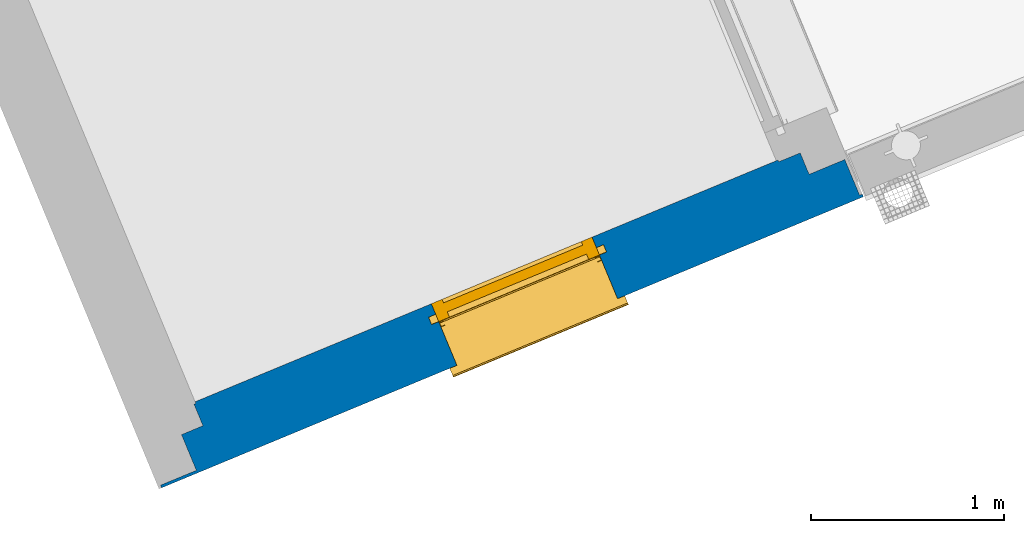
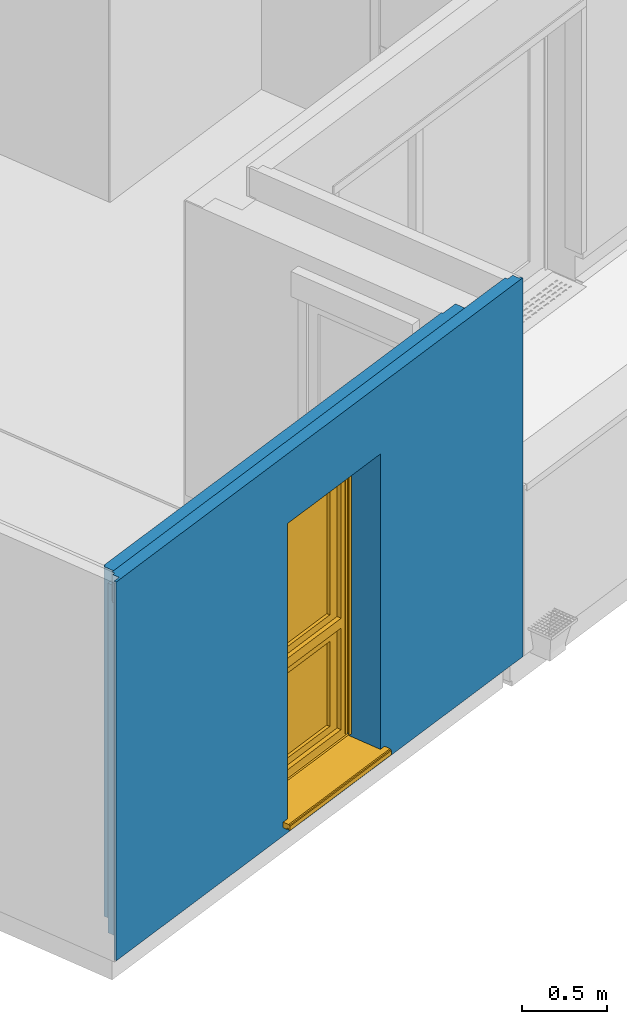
# One storey, part 3 of 91: 1 wall, 1 window, 1 opening.
"""IFC2X3 building model written with IfcOpenShell, lengths in metres."""

from ifc_helpers import new_model, entity, si_unit, converted_unit, derived_unit, money_unit, direction, frame, origin_with_axes, place, context, subcontext, project, spatial, open_shell, faceted_brep, surface_model, source, transform, mapped, material, material_list, type_object, element, fill, save


model = new_model("IFC2X3")

# Units and contexts
model_context = context("Model", 3, precision=1e-05, world=origin_with_axes(), true_north=direction((0.0, 1.0)))
body_context = subcontext(model_context, "Body", "Model", "MODEL_VIEW")
ifc_project = project(units=[si_unit("LENGTHUNIT", "METRE"), si_unit("AREAUNIT", "SQUARE_METRE"), si_unit("VOLUMEUNIT", "CUBIC_METRE"), converted_unit("PLANEANGLEUNIT", "DEGREE", entity("IfcPlaneAngleMeasure", 0.0174532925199), si_unit("PLANEANGLEUNIT", "RADIAN"), dimensions=[0, 0, 0, 0, 0, 0, 0]), si_unit("SOLIDANGLEUNIT", "STERADIAN"), money_unit("EUR"), converted_unit("TIMEUNIT", "Year", entity("IfcTimeMeasure", 31556926.0), si_unit("TIMEUNIT", "SECOND"), dimensions=[0, 0, 1, 0, 0, 0, 0]), si_unit("MASSUNIT", "GRAM", prefix="KILO"), si_unit("THERMODYNAMICTEMPERATUREUNIT", "DEGREE_CELSIUS"), si_unit("LUMINOUSINTENSITYUNIT", "LUMEN"), si_unit("ENERGYUNIT", "JOULE", prefix="MEGA"), derived_unit("THERMALCONDUCTANCEUNIT", [(si_unit("POWERUNIT", "WATT"), 1), (si_unit("LENGTHUNIT", "METRE"), -1), (si_unit("THERMODYNAMICTEMPERATUREUNIT", "KELVIN"), -1)]), derived_unit("SPECIFICHEATCAPACITYUNIT", [(si_unit("ENERGYUNIT", "JOULE"), 1), (si_unit("MASSUNIT", "GRAM", prefix="KILO"), -1), (si_unit("THERMODYNAMICTEMPERATUREUNIT", "KELVIN"), -1)]), derived_unit("MASSDENSITYUNIT", [(si_unit("MASSUNIT", "GRAM", prefix="KILO"), 1), (si_unit("VOLUMEUNIT", "CUBIC_METRE"), -1)])], contexts=[model_context])

# Site, building, storey
site_placement = place(None, origin_with_axes())
site = spatial("IfcSite", under=ifc_project, at=site_placement, Name="Site", CompositionType="ELEMENT")
building_placement = place(site_placement, origin_with_axes())
building = spatial("IfcBuilding", under=site, at=building_placement, Name="Bâtiment", CompositionType="ELEMENT")
storey_placement = place(building_placement, frame((0.0, 0.0, 5.44), z_axis=(0.0, 0.0, 1.0), x_axis=(1.0, 0.0, 0.0)))
storey = spatial("IfcBuildingStorey", under=building, at=storey_placement, Name="R+2", CompositionType="ELEMENT", Elevation=5.44)

# Wall, opening, window
ifc_material_1 = material(Name="Finition int - Plaque de plâtre")
ifc_material_2 = material(Name="Isolation - Polystyrène extrudé")
ifc_material_3 = material(Name="Bloc ELITHERM")
ifc_material_4 = material(Name="Isolation - Polystyrène expansé")
ifc_material_5 = material(Name="Mortier")
ifc_material_6 = material(Name="Béton cellulaire")
ifc_material_7 = material(Name="Finition ext - Crépis")
ifc_material_list = material_list([ifc_material_1, ifc_material_2, ifc_material_3, ifc_material_4, ifc_material_5, ifc_material_6, ifc_material_7])
wall_type = type_object("IfcWallType", Name="Mur ALKERN + planelle 21 345 x 2720", PredefinedType="USERDEFINED")
wall_placement = place(storey_placement, frame((-30.9825111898, -28.5909034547, 0.0), z_axis=(0.0, 0.0, 1.0), x_axis=(0.923701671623, 0.383112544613, 0.0)))
wall = element("IfcWall", 1, at=wall_placement, inside=storey, type_object=wall_type, material=ifc_material_list, Name="Mue bloc ALKERN isolé", ObjectType="SOLIDWALL", context=body_context, shape_type="Brep", body=[
    faceted_brep([(3.60992818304, 0.335000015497, 2.51), (0.344999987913, 0.335000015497, 2.51), (0.344999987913, 0.335000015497, 0.0), (3.60992818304, 0.335000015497, 0.0), (1.66817600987, 0.335000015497, 2.22), (1.66817600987, 0.335000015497, 2.4), (2.56817600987, 0.335000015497, 2.4), (2.56817600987, 0.335000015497, 2.22), (2.56817600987, 0.335000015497, 0.12), (1.66817600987, 0.335000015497, 0.12), (3.60992818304, 0.34499998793, 2.51), (0.344999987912, 0.34499998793, 2.51), (0.344999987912, 0.34499998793, 0.0), (3.60992818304, 0.34499998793, 0.0), (1.66817600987, 0.34499998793, 2.22), (1.66817600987, 0.34499998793, 2.4), (1.66817600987, 0.34499998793, 0.12), (2.56817600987, 0.34499998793, 2.4), (2.56817600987, 0.34499998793, 2.22), (2.56817600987, 0.34499998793, 0.12)], [[[0, 1, 2, 3], [4, 5, 6, 7, 8, 9]], [[10, 11, 1, 0]], [[1, 11, 12, 2]], [[3, 2, 12, 13]], [[0, 3, 13, 10]], [[14, 15, 5, 4, 9, 16]], [[6, 5, 15, 17]], [[7, 6, 17, 18, 19, 8]], [[8, 19, 16, 9]], [[13, 12, 11, 10], [15, 14, 16, 19, 18, 17]]]),
    faceted_brep([(2.56817600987, 0.286, 0.12), (2.56817600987, 0.286, 0.06), (2.56817600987, 0.215000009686, 0.06), (2.56817600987, 0.215000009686, 0.12), (2.56817600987, 0.215, 2.22), (2.56817600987, 0.215, 2.4), (2.56817600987, 0.335000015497, 2.4), (2.56817600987, 0.335000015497, 2.22), (2.56817600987, 0.335000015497, 0.12), (1.66817600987, 0.286, 0.12), (1.66817600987, 0.286, 0.06), (1.66817600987, 0.215000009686, 0.06), (0.335000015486, 0.215000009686, 0.0), (3.7299282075, 0.215000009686, 0.0), (3.7299282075, 0.215000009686, 2.50999999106), (0.335000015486, 0.215000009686, 2.51), (1.66817600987, 0.215000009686, 0.12), (1.66817600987, 0.215, 2.22), (1.66817600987, 0.215, 2.4), (1.66817600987, 0.335000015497, 2.4), (0.33500001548, 0.335000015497, 2.51), (3.72992820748, 0.335000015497, 2.50999999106), (3.72992820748, 0.335000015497, 0.0), (0.33500001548, 0.335000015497, 0.0), (1.66817600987, 0.335000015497, 2.22), (1.66817600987, 0.335000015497, 0.12)], [[[0, 1, 2, 3, 4, 5, 6, 7, 8]], [[0, 9, 10, 1]], [[11, 2, 1, 10]], [[12, 13, 14, 15], [11, 16, 17, 18, 5, 4, 3, 2]], [[18, 19, 6, 5]], [[20, 21, 22, 23], [8, 7, 6, 19, 24, 25]], [[9, 0, 8, 25]], [[16, 11, 10, 9, 25, 24, 19, 18, 17]], [[23, 22, 13, 12]], [[22, 21, 14, 13]], [[15, 14, 21, 20]], [[23, 12, 15, 20]]]),
    faceted_brep([(2.56817600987, 0.214999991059, 0.12), (2.56817600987, 0.214999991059, 0.06), (2.56817600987, 0.015, 0.06), (2.56817600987, 0.015, 0.12), (2.56817600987, 0.015, 2.22), (2.56817600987, 0.214999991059, 2.22), (3.92992821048, 0.214999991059, 0.0), (0.214999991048, 0.214999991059, 0.0), (0.214999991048, 0.214999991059, 2.50999999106), (3.92992821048, 0.214999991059, 2.50999999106), (1.66817600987, 0.214999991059, 2.22), (1.66817600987, 0.214999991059, 0.12), (1.66817600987, 0.214999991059, 0.06), (1.66817600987, 0.015, 0.06), (3.92992821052, 0.015, 2.50999999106), (0.214999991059, 0.015, 2.50999999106), (0.214999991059, 0.015, 0.0), (3.92992821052, 0.015, 0.0), (1.66817600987, 0.015, 0.12), (1.66817600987, 0.015, 2.22), (0.214999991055, 0.0829999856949, 2.50999999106), (3.92992821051, 0.0829999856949, 2.50999999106)], [[[0, 1, 2, 3, 4, 5]], [[6, 7, 8, 9], [1, 0, 5, 10, 11, 12]], [[13, 2, 1, 12]], [[14, 15, 16, 17], [13, 18, 19, 4, 3, 2]], [[19, 10, 5, 4]], [[17, 16, 7, 6]], [[8, 7, 16, 15, 20]], [[9, 8, 20, 21]], [[6, 9, 21, 14, 17]], [[18, 13, 12, 11, 10, 19]], [[21, 20, 15, 14]]]),
    faceted_brep([(0.0830000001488, 0.0630000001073, 2.51999999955), (3.88192819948, 0.0630000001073, 2.51999999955), (3.88192819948, 0.0630000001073, 2.72), (0.0830000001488, 0.0630000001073, 2.72), (0.0830000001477, 0.083000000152, 2.51999999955), (3.88192819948, 0.083000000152, 2.51999999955), (3.88192819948, 0.083000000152, 2.72), (0.0830000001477, 0.083000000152, 2.72)], [[[0, 1, 2, 3]], [[4, 5, 1, 0]], [[5, 6, 2, 1]], [[3, 2, 6, 7]], [[4, 0, 3, 7]], [[7, 6, 5, 4]]]),
    faceted_brep([(3.92992821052, 0.015, 2.50999999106), (3.92992821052, 0.015, 2.51999999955), (0.0829999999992, 0.015, 2.52), (0.0829999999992, 0.015, 2.51), (3.92992821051, 0.083, 2.51999999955), (3.92992821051, 0.083, 2.50999999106), (0.0829999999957, 0.083, 2.52), (0.0829999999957, 0.083, 2.51)], [[[0, 1, 2, 3]], [[4, 1, 0, 5]], [[1, 4, 6, 2]], [[3, 2, 6, 7]], [[5, 0, 3, 7]], [[4, 5, 7, 6]]]),
    faceted_brep([(3.92992821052, 0.015, 2.51999999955), (3.92992821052, 0.015, 2.72), (0.0629999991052, 0.015, 2.72), (0.0629999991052, 0.015, 2.51999999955), (3.92992821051, 0.0629999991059, 2.72), (3.92992821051, 0.0629999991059, 2.51999999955), (0.0629999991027, 0.0629999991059, 2.72), (0.0629999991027, 0.0629999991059, 2.51999999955)], [[[0, 1, 2, 3]], [[4, 1, 0, 5]], [[1, 4, 6, 2]], [[3, 2, 6, 7]], [[5, 0, 3, 7]], [[4, 5, 7, 6]]]),
    faceted_brep([(2.56817600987, 0.0149999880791, 0.12), (2.56817600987, 0.0, 0.12), (2.56817600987, 0.0, 2.22), (2.56817600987, 0.0149999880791, 2.22), (2.56817600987, 0.0, 0.06), (2.56817600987, 0.0149999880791, 0.06), (0.0149999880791, 0.0, 0.0), (3.94492818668, 0.0, 0.0), (3.94492818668, 0.0, 2.72), (0.0149999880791, 0.0, 2.72), (1.66817600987, 0.0, 0.06), (1.66817600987, 0.0, 0.12), (1.66817600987, 0.0, 2.22), (1.66817600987, 0.0149999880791, 2.22), (3.94492818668, 0.0149999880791, 2.72), (3.94492818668, 0.0149999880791, 0.0), (0.0149999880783, 0.0149999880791, 0.0), (0.0149999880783, 0.0149999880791, 2.72), (1.66817600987, 0.0149999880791, 0.12), (1.66817600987, 0.0149999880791, 0.06)], [[[0, 1, 2, 3]], [[4, 1, 0, 5]], [[6, 7, 8, 9], [10, 11, 12, 2, 1, 4]], [[12, 13, 3, 2]], [[14, 15, 16, 17], [5, 0, 3, 13, 18, 19]], [[10, 4, 5, 19]], [[16, 15, 7, 6]], [[14, 8, 7, 15]], [[9, 8, 14, 17]], [[17, 16, 6, 9]], [[18, 11, 10, 19]], [[11, 18, 13, 12]]]),
])
opening_placement = place(wall_placement, frame((2.11817600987, 0.0, 0.12), z_axis=(0.0, 0.0, 1.0), x_axis=(1.0, 0.0, 0.0)))
opening = element("IfcOpeningElement", 2, at=opening_placement, cuts=wall, Name="MEN 86", context=body_context, shape_type="Brep", body=[
    faceted_brep([(-0.45, 0.83499998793, 0.0), (0.45, 0.83499998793, 0.0), (0.45, 0.245, 0.0), (-0.45, 0.245, 0.0), (-0.45, 0.83499998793, 2.1), (0.45, 0.83499998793, 2.1), (0.45, 0.245, 2.1), (-0.45, 0.245, 2.1)], [[[0, 1, 2, 3]], [[0, 4, 5, 1]], [[1, 5, 6, 2]], [[3, 2, 6, 7]], [[4, 0, 3, 7]], [[5, 4, 7, 6]]]),
    faceted_brep([(-0.45, -0.34499998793, 0.0), (-0.45, -0.34499998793, 2.1), (-0.45, 0.245, 2.1), (-0.45, 0.245, 0.0), (0.45, -0.34499998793, 0.0), (0.45, -0.34499998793, 2.1), (0.45, 0.245, 2.1), (0.45, 0.245, 0.0)], [[[0, 1, 2, 3]], [[0, 4, 5, 1]], [[1, 5, 6, 2]], [[3, 2, 6, 7]], [[4, 0, 3, 7]], [[5, 4, 7, 6]]]),
    faceted_brep([(-0.45, -0.34499998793, 0.0), (-0.45, -0.34499998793, 2.1), (-0.45, 0.245, 2.1), (-0.45, 0.245, 0.0), (0.45, -0.34499998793, 0.0), (0.45, -0.34499998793, 2.1), (0.45, 0.245, 2.1), (0.45, 0.245, 0.0)], [[[0, 1, 2, 3]], [[0, 4, 5, 1]], [[1, 5, 6, 2]], [[3, 2, 6, 7]], [[4, 0, 3, 7]], [[5, 4, 7, 6]]]),
    faceted_brep([(-0.45, 0.80499998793, 2.1), (0.45, 0.80499998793, 2.1), (0.45, 0.215, 2.1), (-0.45, 0.215, 2.1), (-0.45, 0.80499998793, 2.28), (0.45, 0.80499998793, 2.28), (0.45, 0.215, 2.28), (-0.45, 0.215, 2.28)], [[[0, 1, 2, 3]], [[0, 4, 5, 1]], [[1, 5, 6, 2]], [[3, 2, 6, 7]], [[4, 0, 3, 7]], [[5, 4, 7, 6]]]),
    faceted_brep([(-0.45, -0.30399998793, 0.0), (0.45, -0.30399998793, 0.0), (0.45, 0.286, 0.0), (-0.45, 0.286, 0.0), (-0.45, -0.30399998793, -0.06), (0.45, -0.30399998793, -0.06), (0.45, 0.286, -0.06), (-0.45, 0.286, -0.06)], [[[0, 1, 2, 3]], [[0, 4, 5, 1]], [[1, 5, 6, 2]], [[3, 2, 6, 7]], [[4, 0, 3, 7]], [[5, 4, 7, 6]]]),
])
window_style = type_object("IfcWindowStyle", Name="Baie générique 2017 v2", ConstructionType="NOTDEFINED", OperationType="NOTDEFINED", ParameterTakesPrecedence=False, Sizeable=False)
shared_shape = source(origin_with_axes(), body_context, "Body", "SurfaceModel", [
    faceted_brep([(-0.45, 0.0, 2.1), (-0.45, 0.0, 0.0), (0.45, 0.0, 0.0), (0.45, 0.0, 2.1), (0.39, 0.0, 0.85), (-0.39, 0.0, 0.85), (-0.39, 0.0, 2.05), (0.39, 0.0, 2.05), (0.39, 0.0, 0.78), (0.39, 0.0, 0.05), (-0.39, 0.0, 0.05), (-0.39, 0.0, 0.78), (-0.45, 0.1, 2.1), (-0.45, 0.1, 0.0), (0.45, 0.1, 0.0), (0.45, 0.1, 2.1), (0.39, 0.1, 0.85), (-0.39, 0.1, 0.85), (-0.39, 0.1, 2.05), (0.39, 0.1, 2.05), (0.39, 0.1, 0.78), (0.39, 0.1, 0.05), (-0.39, 0.1, 0.05), (-0.39, 0.1, 0.78)], [[[0, 1, 2, 3], [4, 5, 6, 7], [8, 9, 10, 11]], [[0, 12, 13, 1]], [[1, 13, 14, 2]], [[2, 14, 15, 3]], [[3, 15, 12, 0]], [[4, 16, 17, 5]], [[5, 17, 18, 6]], [[6, 18, 19, 7]], [[16, 4, 7, 19]], [[8, 20, 21, 9]], [[9, 21, 22, 10]], [[23, 11, 10, 22]], [[20, 8, 11, 23]], [[14, 13, 12, 15], [16, 19, 18, 17], [20, 23, 22, 21]]]),
    faceted_brep([(0.39, 0.08, 2.05), (0.39, 0.08, 0.85), (-0.39, 0.08, 0.85), (-0.39, 0.08, 2.05), (0.32, 0.08, 1.98), (-0.32, 0.08, 1.98), (-0.32, 0.08, 0.9), (0.32, 0.08, 0.9), (0.39, 0.03, 2.05), (0.39, 0.03, 0.85), (-0.39, 0.03, 0.85), (-0.39, 0.03, 2.05), (0.32, 0.03, 1.98), (-0.32, 0.03, 1.98), (-0.32, 0.03, 0.9), (0.32, 0.03, 0.9)], [[[0, 1, 2, 3], [4, 5, 6, 7]], [[1, 0, 8, 9]], [[10, 2, 1, 9]], [[11, 3, 2, 10]], [[0, 3, 11, 8]], [[5, 4, 12, 13]], [[14, 6, 5, 13]], [[15, 7, 6, 14]], [[4, 7, 15, 12]], [[11, 10, 9, 8], [15, 14, 13, 12]]]),
    surface_model("IfcShellBasedSurfaceModel", [(-0.39, 0.08, 0.85), (-0.39, 0.055, 0.85), (-0.39, 0.055, 2.05), (-0.39, 0.08, 2.05)], [open_shell([[[0, 1, 2, 3]]])]),
    surface_model("IfcShellBasedSurfaceModel", [(0.39, 0.08, 0.85), (0.39, 0.055, 0.85), (0.39, 0.055, 2.05), (0.39, 0.08, 2.05)], [open_shell([[[0, 1, 2, 3]]])]),
    surface_model("IfcShellBasedSurfaceModel", [(-0.39, 0.08, 0.85), (-0.39, 0.055, 0.85), (0.39, 0.055, 0.85), (0.39, 0.08, 0.85)], [open_shell([[[0, 1, 2, 3]]])]),
    surface_model("IfcShellBasedSurfaceModel", [(-0.39, 0.08, 2.05), (-0.39, 0.055, 2.05), (0.39, 0.055, 2.05), (0.39, 0.08, 2.05)], [open_shell([[[0, 1, 2, 3]]])]),
    surface_model("IfcShellBasedSurfaceModel", [(-0.39, 0.055, 0.85), (-0.39, 0.03, 0.85), (-0.39, 0.03, 2.05), (-0.39, 0.055, 2.05)], [open_shell([[[0, 1, 2, 3]]])]),
    surface_model("IfcShellBasedSurfaceModel", [(0.39, 0.055, 0.85), (0.39, 0.03, 0.85), (0.39, 0.03, 2.05), (0.39, 0.055, 2.05)], [open_shell([[[0, 1, 2, 3]]])]),
    surface_model("IfcShellBasedSurfaceModel", [(-0.39, 0.055, 0.85), (-0.39, 0.03, 0.85), (0.39, 0.03, 0.85), (0.39, 0.055, 0.85)], [open_shell([[[0, 1, 2, 3]]])]),
    surface_model("IfcShellBasedSurfaceModel", [(-0.39, 0.055, 2.05), (-0.39, 0.03, 2.05), (0.39, 0.03, 2.05), (0.39, 0.055, 2.05)], [open_shell([[[0, 1, 2, 3]]])]),
    faceted_brep([(-0.32, 0.0575, 0.9), (0.32, 0.0575, 0.9), (0.32, 0.0525, 0.9), (-0.32, 0.0525, 0.9), (-0.32, 0.0575, 1.98), (0.32, 0.0575, 1.98), (0.32, 0.0525, 1.98), (-0.32, 0.0525, 1.98)], [[[0, 1, 2, 3]], [[0, 4, 5, 1]], [[1, 5, 6, 2]], [[3, 2, 6, 7]], [[4, 0, 3, 7]], [[5, 4, 7, 6]]]),
    faceted_brep([(0.39, 0.08, 0.78), (0.39, 0.08, 0.05), (-0.39, 0.08, 0.05), (-0.39, 0.08, 0.78), (0.32, 0.08, 0.71), (-0.32, 0.08, 0.71), (-0.32, 0.08, 0.1), (0.32, 0.08, 0.1), (0.39, 0.03, 0.78), (0.39, 0.03, 0.05), (-0.39, 0.03, 0.05), (-0.39, 0.03, 0.78), (0.32, 0.03, 0.71), (-0.32, 0.03, 0.71), (-0.32, 0.03, 0.1), (0.32, 0.03, 0.1)], [[[0, 1, 2, 3], [4, 5, 6, 7]], [[1, 0, 8, 9]], [[10, 2, 1, 9]], [[11, 3, 2, 10]], [[0, 3, 11, 8]], [[5, 4, 12, 13]], [[14, 6, 5, 13]], [[15, 7, 6, 14]], [[4, 7, 15, 12]], [[11, 10, 9, 8], [15, 14, 13, 12]]]),
    surface_model("IfcShellBasedSurfaceModel", [(-0.39, 0.08, 0.05), (-0.39, 0.055, 0.05), (-0.39, 0.055, 0.78), (-0.39, 0.08, 0.78)], [open_shell([[[0, 1, 2, 3]]])]),
    surface_model("IfcShellBasedSurfaceModel", [(0.39, 0.08, 0.05), (0.39, 0.055, 0.05), (0.39, 0.055, 0.78), (0.39, 0.08, 0.78)], [open_shell([[[0, 1, 2, 3]]])]),
    surface_model("IfcShellBasedSurfaceModel", [(-0.39, 0.08, 0.05), (-0.39, 0.055, 0.05), (0.39, 0.055, 0.05), (0.39, 0.08, 0.05)], [open_shell([[[0, 1, 2, 3]]])]),
    surface_model("IfcShellBasedSurfaceModel", [(-0.39, 0.08, 0.78), (-0.39, 0.055, 0.78), (0.39, 0.055, 0.78), (0.39, 0.08, 0.78)], [open_shell([[[0, 1, 2, 3]]])]),
    surface_model("IfcShellBasedSurfaceModel", [(-0.39, 0.055, 0.05), (-0.39, 0.03, 0.05), (-0.39, 0.03, 0.78), (-0.39, 0.055, 0.78)], [open_shell([[[0, 1, 2, 3]]])]),
    surface_model("IfcShellBasedSurfaceModel", [(0.39, 0.055, 0.05), (0.39, 0.03, 0.05), (0.39, 0.03, 0.78), (0.39, 0.055, 0.78)], [open_shell([[[0, 1, 2, 3]]])]),
    surface_model("IfcShellBasedSurfaceModel", [(-0.39, 0.055, 0.05), (-0.39, 0.03, 0.05), (0.39, 0.03, 0.05), (0.39, 0.055, 0.05)], [open_shell([[[0, 1, 2, 3]]])]),
    surface_model("IfcShellBasedSurfaceModel", [(-0.39, 0.055, 0.78), (-0.39, 0.03, 0.78), (0.39, 0.03, 0.78), (0.39, 0.055, 0.78)], [open_shell([[[0, 1, 2, 3]]])]),
    faceted_brep([(-0.32, 0.0575, 0.1), (0.32, 0.0575, 0.1), (0.32, 0.0525, 0.1), (-0.32, 0.0525, 0.1), (-0.32, 0.0575, 0.71), (0.32, 0.0575, 0.71), (0.32, 0.0525, 0.71), (-0.32, 0.0525, 0.71)], [[[0, 1, 2, 3]], [[0, 4, 5, 1]], [[1, 5, 6, 2]], [[3, 2, 6, 7]], [[4, 0, 3, 7]], [[5, 4, 7, 6]]]),
    faceted_brep([(-0.45, -0.03, 0.0), (-0.425, -0.03, 0.0), (-0.425, -0.03, 2.1), (-0.45, -0.03, 2.1), (-0.45, -0.002, 0.0), (-0.425, -0.002, 0.0), (-0.425, -0.004, 0.0), (-0.448, -0.004, 0.0), (-0.448, -0.028, 0.0), (-0.425, -0.028, 0.0), (-0.425, -0.028, 2.1), (-0.448, -0.028, 2.1), (-0.448, -0.004, 2.1), (-0.425, -0.004, 2.1), (-0.425, -0.002, 2.1), (-0.45, -0.002, 2.1)], [[[0, 1, 2, 3]], [[0, 4, 5, 6, 7, 8, 9, 1]], [[1, 9, 10, 2]], [[3, 2, 10, 11, 12, 13, 14, 15]], [[4, 0, 3, 15]], [[5, 4, 15, 14]], [[6, 5, 14, 13]], [[7, 6, 13, 12]], [[8, 7, 12, 11]], [[9, 8, 11, 10]]]),
    faceted_brep([(0.45, -0.03, 0.0), (0.45, -0.03, 2.1), (0.425, -0.03, 2.1), (0.425, -0.03, 0.0), (0.45, -0.002, 0.0), (0.45, -0.002, 2.1), (0.425, -0.002, 2.1), (0.425, -0.004, 2.1), (0.448, -0.004, 2.1), (0.448, -0.028, 2.1), (0.425, -0.028, 2.1), (0.425, -0.028, 0.0), (0.448, -0.028, 0.0), (0.448, -0.004, 0.0), (0.425, -0.004, 0.0), (0.425, -0.002, 0.0)], [[[0, 1, 2, 3]], [[4, 5, 1, 0]], [[1, 5, 6, 7, 8, 9, 10, 2]], [[3, 2, 10, 11]], [[0, 3, 11, 12, 13, 14, 15, 4]], [[15, 6, 5, 4]], [[14, 7, 6, 15]], [[13, 8, 7, 14]], [[12, 9, 8, 13]], [[11, 10, 9, 12]]]),
    faceted_brep([(0.448, -0.028, 2.1), (-0.448, -0.028, 2.1), (-0.448, -0.028, 2.278), (0.448, -0.028, 2.278), (0.448, -0.03, 2.1), (-0.448, -0.03, 2.1), (-0.448, -0.03, 2.28), (-0.448, 0.17, 2.28), (-0.448, 0.17, 2.1), (-0.448, 0.168, 2.1), (-0.448, 0.168, 2.278), (0.448, 0.168, 2.278), (0.448, 0.168, 2.1), (0.448, 0.17, 2.1), (0.448, 0.17, 2.28), (0.448, -0.03, 2.28)], [[[0, 1, 2, 3]], [[4, 5, 1, 0]], [[1, 5, 6, 7, 8, 9, 10, 2]], [[3, 2, 10, 11]], [[0, 3, 11, 12, 13, 14, 15, 4]], [[15, 6, 5, 4]], [[14, 7, 6, 15]], [[13, 8, 7, 14]], [[12, 9, 8, 13]], [[11, 10, 9, 12]]]),
    faceted_brep([(0.448, 0.0724697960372, 2.17436337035), (0.448, 0.08, 2.19), (0.448, 0.0724697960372, 2.20563662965), (0.448, 0.0555495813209, 2.20949855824), (0.448, 0.041980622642, 2.19867767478), (0.448, 0.041980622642, 2.18132232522), (0.448, 0.0555495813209, 2.17050144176), (-0.448, 0.0724697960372, 2.17436337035), (-0.448, 0.08, 2.19), (-0.448, 0.0724697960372, 2.20563662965), (-0.448, 0.0555495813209, 2.20949855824), (-0.448, 0.041980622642, 2.19867767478), (-0.448, 0.041980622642, 2.18132232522), (-0.448, 0.0555495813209, 2.17050144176)], [[[0, 1, 2, 3, 4, 5, 6]], [[0, 7, 8, 1]], [[1, 8, 9, 2]], [[2, 9, 10, 3]], [[3, 10, 11, 4]], [[4, 11, 12, 5]], [[5, 12, 13, 6]], [[6, 13, 7, 0]], [[7, 13, 12, 11, 10, 9, 8]]]),
    faceted_brep([(0.438, 0.130275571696, 2.15615706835), (0.438, 0.138, 2.19), (0.438, 0.130275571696, 2.22384293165), (0.438, 0.108632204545, 2.25098285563), (0.438, 0.0773566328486, 2.26604437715), (0.438, 0.0426433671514, 2.26604437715), (0.438, 0.011367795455, 2.25098285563), (0.438, -0.0102755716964, 2.22384293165), (0.438, -0.018, 2.19), (0.438, -0.0102755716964, 2.15615706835), (0.438, 0.011367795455, 2.12901714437), (0.438, 0.0426433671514, 2.11395562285), (0.438, 0.0773566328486, 2.11395562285), (0.438, 0.108632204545, 2.12901714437), (-0.438, 0.130275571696, 2.15615706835), (-0.438, 0.138, 2.19), (-0.438, 0.130275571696, 2.22384293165), (-0.438, 0.108632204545, 2.25098285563), (-0.438, 0.0773566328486, 2.26604437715), (-0.438, 0.0426433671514, 2.26604437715), (-0.438, 0.011367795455, 2.25098285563), (-0.438, -0.0102755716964, 2.22384293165), (-0.438, -0.018, 2.19), (-0.438, -0.0102755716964, 2.15615706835), (-0.438, 0.011367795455, 2.12901714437), (-0.438, 0.0426433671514, 2.11395562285), (-0.438, 0.0773566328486, 2.11395562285), (-0.438, 0.108632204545, 2.12901714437)], [[[0, 1, 2, 3, 4, 5, 6, 7, 8, 9, 10, 11, 12, 13]], [[0, 14, 15, 1]], [[1, 15, 16, 2]], [[2, 16, 17, 3]], [[3, 17, 18, 4]], [[4, 18, 19, 5]], [[5, 19, 20, 6]], [[6, 20, 21, 7]], [[7, 21, 22, 8]], [[8, 22, 23, 9]], [[9, 23, 24, 10]], [[10, 24, 25, 11]], [[11, 25, 26, 12]], [[12, 26, 27, 13]], [[13, 27, 14, 0]], [[14, 27, 26, 25, 24, 23, 22, 21, 20, 19, 18, 17, 16, 15]]]),
    faceted_brep([(0.45, 0.17, 2.1), (0.448, 0.17, 2.1), (0.448, 0.17, 2.28), (0.45, 0.17, 2.28), (0.45, -0.03, 2.1), (0.448, -0.03, 2.1), (0.448, -0.03, 2.28), (0.45, -0.03, 2.28)], [[[0, 1, 2, 3]], [[4, 5, 1, 0]], [[1, 5, 6, 2]], [[3, 2, 6, 7]], [[0, 3, 7, 4]], [[7, 6, 5, 4]]]),
    faceted_brep([(-0.448, 0.17, 2.1), (-0.45, 0.17, 2.1), (-0.45, 0.17, 2.28), (-0.448, 0.17, 2.28), (-0.448, -0.03, 2.1), (-0.45, -0.03, 2.1), (-0.45, -0.03, 2.28), (-0.448, -0.03, 2.28)], [[[0, 1, 2, 3]], [[4, 5, 1, 0]], [[1, 5, 6, 2]], [[3, 2, 6, 7]], [[0, 3, 7, 4]], [[7, 6, 5, 4]]]),
    faceted_brep([(0.448, -0.004, 2.1), (-0.448, -0.004, 2.1), (-0.448, 0.168, 2.1), (0.448, 0.168, 2.1), (0.448, -0.004, 2.102), (-0.448, -0.004, 2.102), (-0.448, 0.168, 2.102), (0.448, 0.168, 2.102)], [[[0, 1, 2, 3]], [[4, 5, 1, 0]], [[1, 5, 6, 2]], [[3, 2, 6, 7]], [[0, 3, 7, 4]], [[7, 6, 5, 4]]]),
    faceted_brep([(-0.438, -0.006, 2.1), (-0.438, -0.006, 2.19), (0.438, -0.006, 2.19), (0.438, -0.006, 2.1), (-0.438, -0.026, 2.1), (-0.438, -0.026, 2.19), (0.438, -0.026, 2.19), (0.438, -0.026, 2.1)], [[[0, 1, 2, 3]], [[1, 0, 4, 5]], [[2, 1, 5, 6]], [[3, 2, 6, 7]], [[4, 0, 3, 7]], [[5, 4, 7, 6]]]),
    faceted_brep([(0.45, -0.00167949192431, -0.01), (0.45, 0.0, -0.00373205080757), (0.49, 0.0, -0.00373205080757), (0.49, 0.001, 0.0), (-0.49, 0.001, 0.0), (-0.49, 0.0, -0.00373205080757), (-0.45, 0.0, -0.00373205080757), (-0.45, -0.00167949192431, -0.01), (0.45, -0.009, -0.0173205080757), (0.45, -0.019, -0.02), (0.45, -0.245, -0.02), (0.45, -0.245, -0.06), (0.45, 0.0, -0.06), (0.49, 0.0, -0.06), (0.49, 0.041, -0.06), (0.49, 0.041, 0.0), (-0.49, 0.041, 0.0), (-0.49, 0.041, -0.06), (-0.49, 0.0, -0.06), (-0.45, 0.0, -0.06), (-0.45, -0.245, -0.02), (-0.45, -0.019, -0.02), (-0.45, -0.009, -0.0173205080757), (-0.45, -0.245, -0.06), (-0.49, -0.245, -0.02), (-0.49, -0.285, -0.02), (0.49, -0.285, -0.02), (0.49, -0.245, -0.02), (0.49, -0.245, -0.06), (0.49, -0.275, -0.06), (-0.49, -0.275, -0.06), (-0.49, -0.245, -0.06), (-0.49, -0.295, -0.03), (-0.49, -0.292071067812, -0.0229289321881), (-0.49, -0.275, -0.05), (-0.49, -0.285, -0.05), (-0.49, -0.285, -0.06), (-0.49, -0.295, -0.06), (0.49, -0.292071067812, -0.0229289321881), (0.49, -0.295, -0.03), (0.49, -0.295, -0.06), (0.49, -0.285, -0.06), (0.49, -0.285, -0.05), (0.49, -0.275, -0.05)], [[[0, 1, 2, 3, 4, 5, 6, 7]], [[1, 0, 8, 9, 10, 11, 12]], [[13, 2, 1, 12]], [[2, 13, 14, 15, 3]], [[16, 4, 3, 15]], [[4, 16, 17, 18, 5]], [[5, 18, 19, 6]], [[20, 21, 22, 7, 6, 19, 23]], [[8, 0, 7, 22]], [[9, 8, 22, 21]], [[10, 9, 21, 20, 24, 25, 26, 27]], [[10, 27, 28, 11]], [[11, 28, 29, 30, 31, 23, 19, 18, 17, 14, 13, 12]], [[17, 16, 15, 14]], [[20, 23, 31, 24]], [[32, 33, 25, 24, 31, 30, 34, 35, 36, 37]], [[25, 33, 38, 26]], [[28, 27, 26, 38, 39, 40, 41, 42, 43, 29]], [[34, 30, 29, 43]], [[33, 32, 39, 38]], [[35, 34, 43, 42]], [[36, 35, 42, 41]], [[37, 36, 41, 40]], [[32, 37, 40, 39]]]),
])
window_placement = place(opening_placement, frame((-0.45, 0.0, 0.0), z_axis=(0.0, 0.0, 1.0), x_axis=(1.0, 0.0, 0.0)))
window = element("IfcWindow", 3, at=window_placement, inside=storey, type_object=window_style, Name="MEN 86", ObjectType="WINDOW", OverallHeight=2.1, OverallWidth=0.9, context=body_context, shape_type="MappedRepresentation", body=[
    mapped(shared_shape, transform((0.45, 0.245, 0.0))),
])
fill(opening, window)

save(model, "model.ifc")
